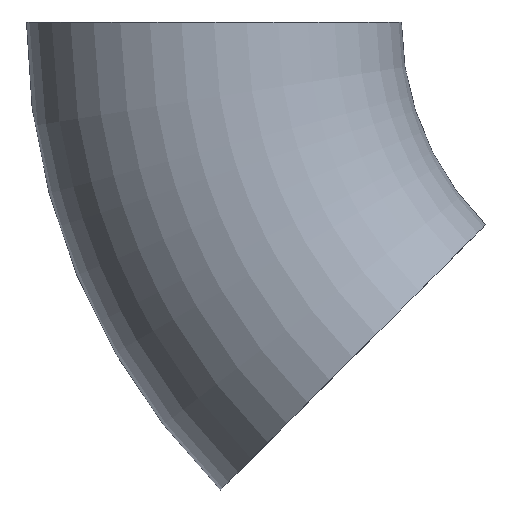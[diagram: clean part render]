
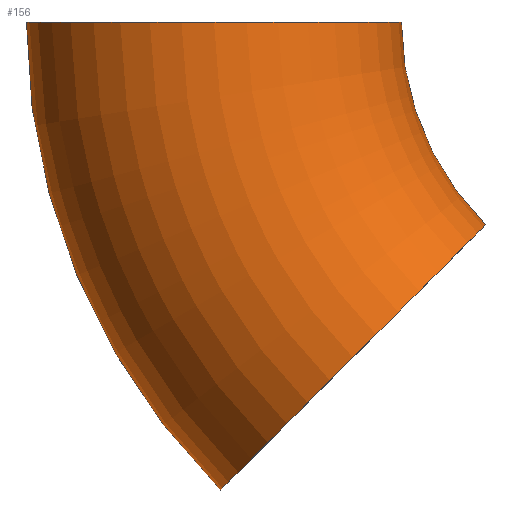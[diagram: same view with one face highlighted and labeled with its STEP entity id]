
A CAD part, front view. The second image highlights one B-rep face of the part: STEP entity #156.
In plain terms, the highlighted toroidal (fillet/blend) face has major radius 450 mm and minor radius 177.8 mm.
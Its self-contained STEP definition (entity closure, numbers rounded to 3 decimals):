
#5 = CARTESIAN_POINT ( 'NONE',  ( 0., 0., 0. ) ) ;
#6 = DIRECTION ( 'NONE',  ( 0., 0., 1. ) ) ;
#10 = ORIENTED_EDGE ( 'NONE', *, *, #55, .F. ) ;
#18 = CARTESIAN_POINT ( 'NONE',  ( -192.474, 0., -192.474 ) ) ;
#26 = ORIENTED_EDGE ( 'NONE', *, *, #87, .T. ) ;
#29 = DIRECTION ( 'NONE',  ( 1., 0., 0. ) ) ;
#31 = VERTEX_POINT ( 'NONE', #51 ) ;
#48 = VERTEX_POINT ( 'NONE', #128 ) ;
#49 = AXIS2_PLACEMENT_3D ( 'NONE', #5, #108, #6 ) ;
#51 = CARTESIAN_POINT ( 'NONE',  ( -443.922, 0., -443.922 ) ) ;
#54 = CARTESIAN_POINT ( 'NONE',  ( -272.2, 0., 0. ) ) ;
#55 = EDGE_CURVE ( 'NONE', #48, #150, #65, .T. ) ;
#65 = CIRCLE ( 'NONE', #134, 177.8 ) ;
#69 = DIRECTION ( 'NONE',  ( 0., 0., 1. ) ) ;
#75 = TOROIDAL_SURFACE ( 'NONE', #100, 450., 177.8 ) ;
#79 = CIRCLE ( 'NONE', #206, 177.8 ) ;
#86 = DIRECTION ( 'NONE',  ( -0.707, 0., 0.707 ) ) ;
#87 = EDGE_CURVE ( 'NONE', #215, #150, #217, .T. ) ;
#99 = DIRECTION ( 'NONE',  ( 0., 1., 0. ) ) ;
#100 = AXIS2_PLACEMENT_3D ( 'NONE', #144, #180, #240 ) ;
#103 = ORIENTED_EDGE ( 'NONE', *, *, #233, .F. ) ;
#108 = DIRECTION ( 'NONE',  ( 0., 1., 0. ) ) ;
#113 = CIRCLE ( 'NONE', #197, 627.8 ) ;
#128 = CARTESIAN_POINT ( 'NONE',  ( -627.8, 0., 0. ) ) ;
#134 = AXIS2_PLACEMENT_3D ( 'NONE', #224, #69, #29 ) ;
#139 = EDGE_CURVE ( 'NONE', #31, #215, #79, .T. ) ;
#144 = CARTESIAN_POINT ( 'NONE',  ( 0., 0., 0. ) ) ;
#150 = VERTEX_POINT ( 'NONE', #54 ) ;
#156 = ADVANCED_FACE ( 'NONE', ( #237 ), #75, .T. ) ;
#158 = EDGE_LOOP ( 'NONE', ( #103, #216, #26, #10 ) ) ;
#165 = CARTESIAN_POINT ( 'NONE',  ( -318.198, 0., -318.198 ) ) ;
#180 = DIRECTION ( 'NONE',  ( 0., 1., 0. ) ) ;
#197 = AXIS2_PLACEMENT_3D ( 'NONE', #232, #99, #251 ) ;
#206 = AXIS2_PLACEMENT_3D ( 'NONE', #165, #86, #225 ) ;
#215 = VERTEX_POINT ( 'NONE', #18 ) ;
#216 = ORIENTED_EDGE ( 'NONE', *, *, #139, .T. ) ;
#217 = CIRCLE ( 'NONE', #49, 272.2 ) ;
#224 = CARTESIAN_POINT ( 'NONE',  ( -450., 0., 0. ) ) ;
#225 = DIRECTION ( 'NONE',  ( 0.707, 0., 0.707 ) ) ;
#232 = CARTESIAN_POINT ( 'NONE',  ( 0., 0., 0. ) ) ;
#233 = EDGE_CURVE ( 'NONE', #31, #48, #113, .T. ) ;
#237 = FACE_OUTER_BOUND ( 'NONE', #158, .T. ) ;
#240 = DIRECTION ( 'NONE',  ( 0., 0., 1. ) ) ;
#251 = DIRECTION ( 'NONE',  ( 0., 0., 1. ) ) ;
